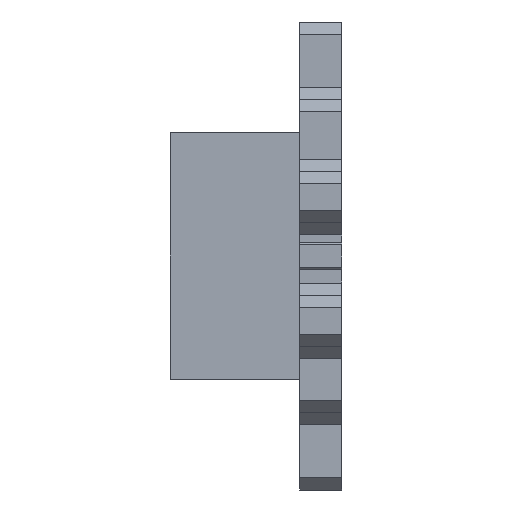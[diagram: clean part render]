
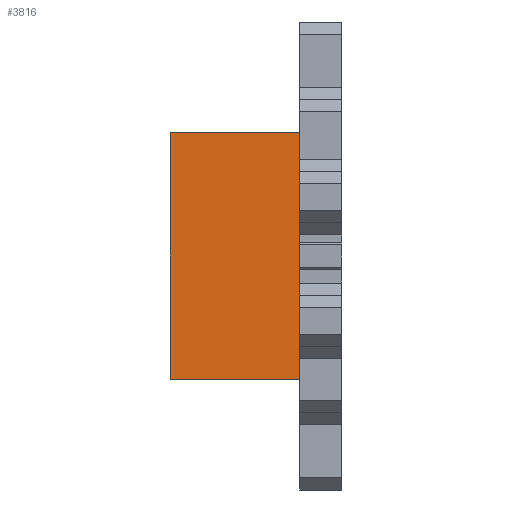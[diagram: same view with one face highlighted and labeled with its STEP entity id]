
A CAD part, front view. The second image highlights one B-rep face of the part: STEP entity #3816.
In plain terms, the highlighted planar face has unit normal (0, -1, 0).
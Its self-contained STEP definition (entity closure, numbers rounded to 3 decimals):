
#316=PLANE('',#4050);
#483=FACE_OUTER_BOUND('',#709,.T.);
#709=EDGE_LOOP('',(#3278,#3279,#3280,#3281));
#825=LINE('',#5129,#1162);
#1067=LINE('',#6949,#1404);
#1068=LINE('',#6950,#1405);
#1069=LINE('',#6951,#1406);
#1162=VECTOR('',#4259,10.);
#1404=VECTOR('',#4803,10.);
#1405=VECTOR('',#4804,10.);
#1406=VECTOR('',#4805,10.);
#1588=VERTEX_POINT('',#5127);
#1589=VERTEX_POINT('',#5128);
#1826=VERTEX_POINT('',#6947);
#1827=VERTEX_POINT('',#6948);
#1947=EDGE_CURVE('',#1588,#1589,#825,.T.);
#2325=EDGE_CURVE('',#1826,#1827,#1067,.T.);
#2326=EDGE_CURVE('',#1589,#1826,#1068,.T.);
#2327=EDGE_CURVE('',#1588,#1827,#1069,.T.);
#3278=ORIENTED_EDGE('',*,*,#2325,.F.);
#3279=ORIENTED_EDGE('',*,*,#2326,.F.);
#3280=ORIENTED_EDGE('',*,*,#1947,.F.);
#3281=ORIENTED_EDGE('',*,*,#2327,.T.);
#3816=ADVANCED_FACE('',(#483),#316,.T.);
#4050=AXIS2_PLACEMENT_3D('',#6946,#4801,#4802);
#4259=DIRECTION('',(0.,0.,-1.));
#4801=DIRECTION('center_axis',(0.,-1.,0.));
#4802=DIRECTION('ref_axis',(0.,0.,1.));
#4803=DIRECTION('',(0.,0.,1.));
#4804=DIRECTION('',(-1.,0.,0.));
#4805=DIRECTION('',(-1.,0.,0.));
#5127=CARTESIAN_POINT('',(21.414,-25.499,45.9));
#5128=CARTESIAN_POINT('',(21.414,-25.499,5.));
#5129=CARTESIAN_POINT('',(21.414,-25.499,45.9));
#6946=CARTESIAN_POINT('Origin',(21.414,-25.499,5.));
#6947=CARTESIAN_POINT('',(0.,-25.499,5.));
#6948=CARTESIAN_POINT('',(0.,-25.499,45.9));
#6949=CARTESIAN_POINT('',(0.,-25.499,15.225));
#6950=CARTESIAN_POINT('',(21.414,-25.499,5.));
#6951=CARTESIAN_POINT('',(21.414,-25.499,45.9));
